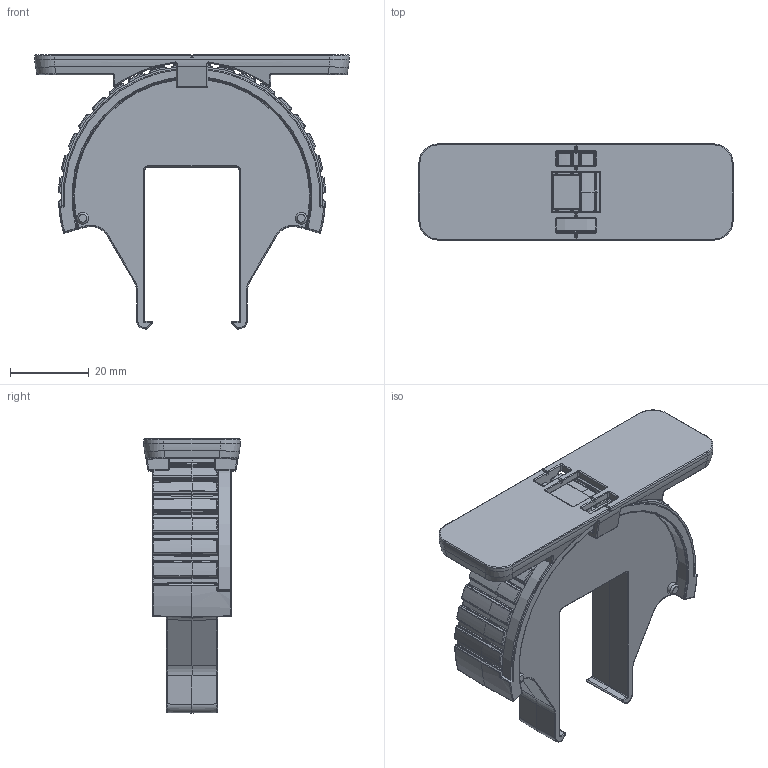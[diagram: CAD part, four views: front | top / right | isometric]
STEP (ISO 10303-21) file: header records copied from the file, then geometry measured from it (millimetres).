
FILE_DESCRIPTION(/* description */ ('Unknown'),/* implementation_level */ '2;1');
FILE_NAME(/* name */ '98771',/* time_stamp */ '2023-02-07T08:26:29-05:00',/* author */ ('Unknown'),/* organization */ ('Unknown'),/* preprocessor_version */ 'ST-DEVELOPER v18.1',/* originating_system */ 'Solid Edge',/* authorisation */ 'Unknown');
FILE_SCHEMA (('AUTOMOTIVE_DESIGN {1 0 10303 214 3 1 1}'));
Length unit declared in the file: millimetre
Products named in the file (1): LED-ACE567_Semplifica
Bounding box: 80 x 24.5 x 69.75 mm (x, y, z)
Volume: 36132.1 mm3; surface area: 16646.8 mm2
Topology: 3 solids, 3 shells, 1509 faces, 3294 edges, 1742 vertices
Faces by surface type: cylinder 487, bspline 310, plane 282, sphere 206, torus 158, cone 66
Full cylindrical faces by diameter (mm): 3 x4
Entity records: 50369 total; most frequent: CARTESIAN_POINT 12006, DIRECTION 6519, ORIENTED_EDGE 6456, EDGE_CURVE 3228, AXIS2_PLACEMENT_3D 2727, VERTEX_POINT 1730, EDGE_LOOP 1520, FACE_BOUND 1520
